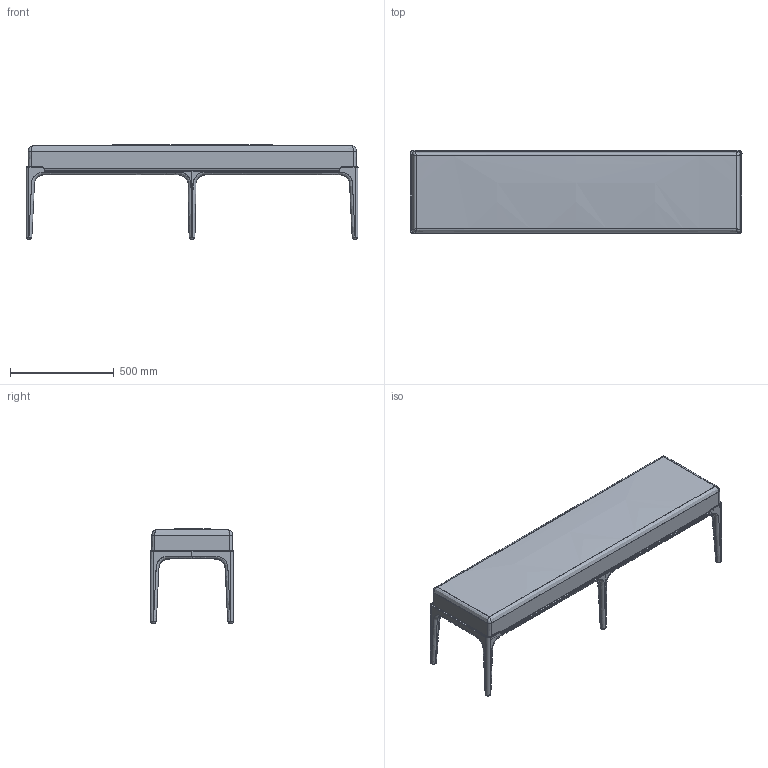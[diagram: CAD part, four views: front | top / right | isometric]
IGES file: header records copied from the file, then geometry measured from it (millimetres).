
Global section: file name: C:\Users\market02\Desktop\RYAN\Fram\EXPORTATION\FFRAMBA160_BANC_BENCH_FRAME_CONSTANCE_01\FFRAMBA160_BANC_BENCH_FRAME.igs; native system: Rhinoceros ( Dec 14 2021 ); preprocessor: Trout Lake IGES 012 Dec 14 2021; date: 220216.134613; units: millimetre
Bounding box: 1600 x 400 x 456.53 mm (x, y, z)
Surface area: 2643415.7 mm2 (no closed solid volume)
Topology: 0 solids, 0 shells, 150 faces, 1801 edges, 1773 vertices
Faces by surface type: bspline 150
